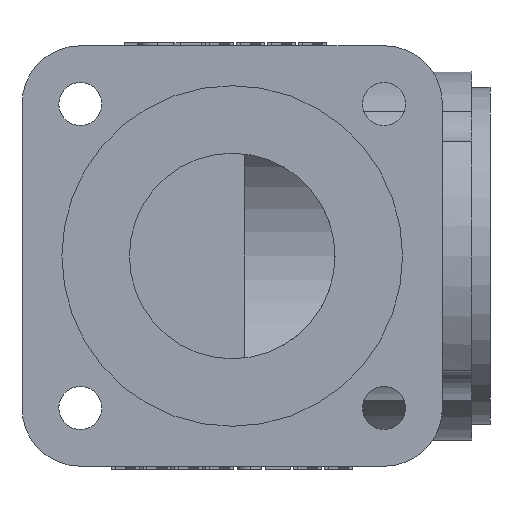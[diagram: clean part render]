
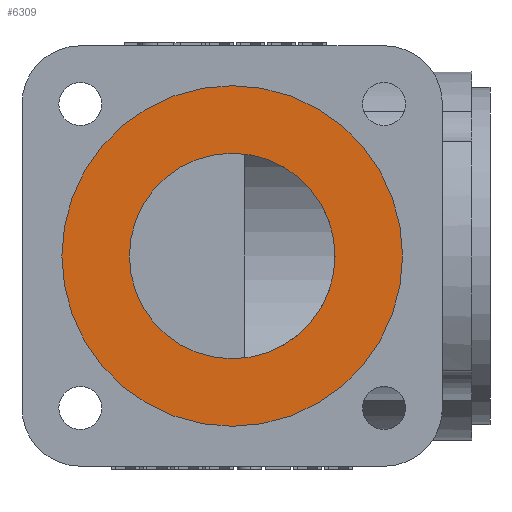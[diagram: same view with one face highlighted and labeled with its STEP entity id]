
A CAD part, front view. The second image highlights one B-rep face of the part: STEP entity #6309.
In plain terms, the highlighted planar face has unit normal (0, -1, 0).
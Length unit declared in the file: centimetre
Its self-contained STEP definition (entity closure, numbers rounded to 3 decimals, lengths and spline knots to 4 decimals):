
#187 = DIRECTION ( 'NONE',  ( 0., -1., 0. ) ) ;
#479 = EDGE_CURVE ( 'NONE', #10996, #8512, #7019, .T. ) ;
#953 = DIRECTION ( 'NONE',  ( 0., 1., 0. ) ) ;
#1182 = FACE_BOUND ( 'NONE', #3542, .T. ) ;
#1442 = EDGE_LOOP ( 'NONE', ( #12255, #10619 ) ) ;
#2389 = CIRCLE ( 'NONE', #7739, 3.35 ) ;
#2715 = CARTESIAN_POINT ( 'NONE',  ( 0., -9.1, -3.35 ) ) ;
#3162 = CARTESIAN_POINT ( 'NONE',  ( 0., -9.1, 5.55 ) ) ;
#3190 = EDGE_CURVE ( 'NONE', #9789, #3438, #2389, .T. ) ;
#3438 = VERTEX_POINT ( 'NONE', #2715 ) ;
#3542 = EDGE_LOOP ( 'NONE', ( #6145, #3689 ) ) ;
#3689 = ORIENTED_EDGE ( 'NONE', *, *, #3190, .F. ) ;
#3789 = DIRECTION ( 'NONE',  ( 0., -1., 0. ) ) ;
#3849 = CARTESIAN_POINT ( 'NONE',  ( 3.35, -9.1, 0. ) ) ;
#4981 = CARTESIAN_POINT ( 'NONE',  ( 0., -9.1, 0. ) ) ;
#5219 = CARTESIAN_POINT ( 'NONE',  ( 0., -9.1, 0. ) ) ;
#5460 = CARTESIAN_POINT ( 'NONE',  ( 0., -9.1, -5.55 ) ) ;
#5713 = AXIS2_PLACEMENT_3D ( 'NONE', #3849, #953, #7824 ) ;
#5966 = DIRECTION ( 'NONE',  ( 0., 0., -1. ) ) ;
#6060 = CARTESIAN_POINT ( 'NONE',  ( 0., -9.1, 0. ) ) ;
#6145 = ORIENTED_EDGE ( 'NONE', *, *, #9123, .F. ) ;
#6221 = DIRECTION ( 'NONE',  ( 0., 0., -1. ) ) ;
#6309 = ADVANCED_FACE ( 'NONE', ( #1182, #8718 ), #9737, .F. ) ;
#6984 = AXIS2_PLACEMENT_3D ( 'NONE', #4981, #11797, #5966 ) ;
#7019 = CIRCLE ( 'NONE', #9036, 5.55 ) ;
#7059 = DIRECTION ( 'NONE',  ( 0., 0., -1. ) ) ;
#7276 = EDGE_CURVE ( 'NONE', #8512, #10996, #7616, .T. ) ;
#7616 = CIRCLE ( 'NONE', #6984, 5.55 ) ;
#7739 = AXIS2_PLACEMENT_3D ( 'NONE', #6060, #187, #7059 ) ;
#7824 = DIRECTION ( 'NONE',  ( 0., 0., 1. ) ) ;
#8405 = AXIS2_PLACEMENT_3D ( 'NONE', #5219, #12059, #6221 ) ;
#8512 = VERTEX_POINT ( 'NONE', #3162 ) ;
#8718 = FACE_OUTER_BOUND ( 'NONE', #1442, .T. ) ;
#9036 = AXIS2_PLACEMENT_3D ( 'NONE', #9659, #3789, #10628 ) ;
#9123 = EDGE_CURVE ( 'NONE', #3438, #9789, #9253, .T. ) ;
#9253 = CIRCLE ( 'NONE', #8405, 3.35 ) ;
#9659 = CARTESIAN_POINT ( 'NONE',  ( 0., -9.1, 0. ) ) ;
#9737 = PLANE ( 'NONE',  #5713 ) ;
#9789 = VERTEX_POINT ( 'NONE', #12050 ) ;
#10619 = ORIENTED_EDGE ( 'NONE', *, *, #7276, .T. ) ;
#10628 = DIRECTION ( 'NONE',  ( 0., 0., -1. ) ) ;
#10996 = VERTEX_POINT ( 'NONE', #5460 ) ;
#11797 = DIRECTION ( 'NONE',  ( 0., -1., 0. ) ) ;
#12050 = CARTESIAN_POINT ( 'NONE',  ( 0., -9.1, 3.35 ) ) ;
#12059 = DIRECTION ( 'NONE',  ( 0., -1., 0. ) ) ;
#12255 = ORIENTED_EDGE ( 'NONE', *, *, #479, .T. ) ;
